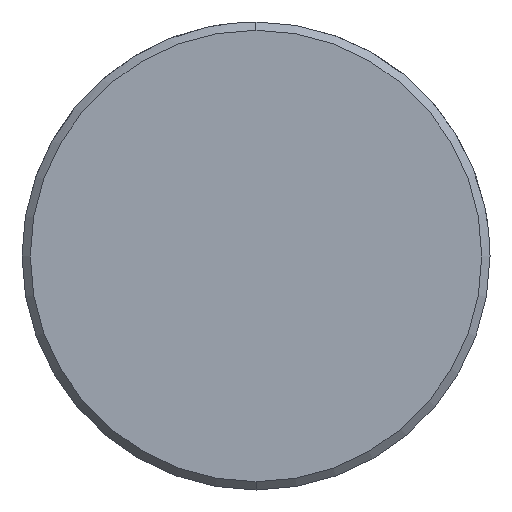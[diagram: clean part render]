
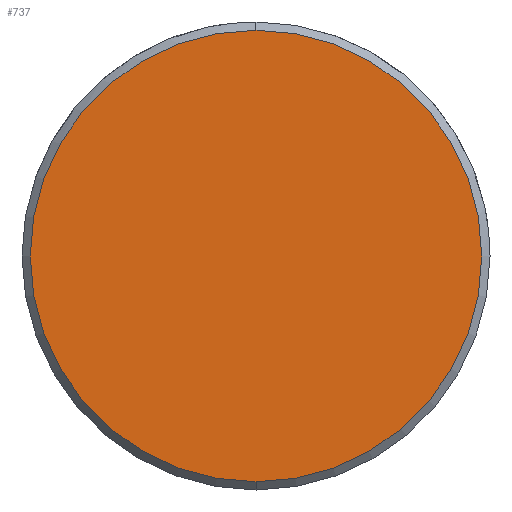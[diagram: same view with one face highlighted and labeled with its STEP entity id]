
A CAD part, left-side view. The second image highlights one B-rep face of the part: STEP entity #737.
In plain terms, the highlighted planar face has unit normal (-1, 0, 0).
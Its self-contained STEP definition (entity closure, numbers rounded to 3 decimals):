
#669=CARTESIAN_POINT('Vertex',(0.,0.,-8.2)) ;
#672=CARTESIAN_POINT('Axis2P3D Location',(0.,0.,0.)) ;
#676=CARTESIAN_POINT('Vertex',(0.,8.2,0.)) ;
#679=CARTESIAN_POINT('Axis2P3D Location',(0.,0.,0.)) ;
#683=CARTESIAN_POINT('Vertex',(0.,0.,8.2)) ;
#705=CARTESIAN_POINT('Axis2P3D Location',(0.,0.,0.)) ;
#709=CARTESIAN_POINT('Vertex',(0.,-8.2,0.)) ;
#712=CARTESIAN_POINT('Axis2P3D Location',(0.,0.,0.)) ;
#726=CARTESIAN_POINT('Axis2P3D Location',(0.,0.,0.)) ;
#673=DIRECTION('Axis2P3D Direction',(1.,0.,-0.)) ;
#680=DIRECTION('Axis2P3D Direction',(1.,0.,-0.)) ;
#706=DIRECTION('Axis2P3D Direction',(1.,0.,-0.)) ;
#713=DIRECTION('Axis2P3D Direction',(1.,0.,-0.)) ;
#727=DIRECTION('Axis2P3D Direction',(1.,0.,-0.)) ;
#728=DIRECTION('Axis2P3D XDirection',(-0.,0.,-1.)) ;
#674=AXIS2_PLACEMENT_3D('Circle Axis2P3D',#672,#673,$) ;
#681=AXIS2_PLACEMENT_3D('Circle Axis2P3D',#679,#680,$) ;
#707=AXIS2_PLACEMENT_3D('Circle Axis2P3D',#705,#706,$) ;
#714=AXIS2_PLACEMENT_3D('Circle Axis2P3D',#712,#713,$) ;
#729=AXIS2_PLACEMENT_3D('Plane Axis2P3D',#726,#727,#728) ;
#732=ORIENTED_EDGE('',*,*,#678,.F.) ;
#733=ORIENTED_EDGE('',*,*,#716,.F.) ;
#734=ORIENTED_EDGE('',*,*,#711,.F.) ;
#735=ORIENTED_EDGE('',*,*,#685,.F.) ;
#737=ADVANCED_FACE('549-14X140',(#736),#730,.F.) ;
#675=CIRCLE('generated circle',#674,8.2) ;
#682=CIRCLE('generated circle',#681,8.2) ;
#708=CIRCLE('generated circle',#707,8.2) ;
#715=CIRCLE('generated circle',#714,8.2) ;
#678=EDGE_CURVE('',#670,#677,#675,.T.) ;
#685=EDGE_CURVE('',#677,#684,#682,.T.) ;
#711=EDGE_CURVE('',#684,#710,#708,.T.) ;
#716=EDGE_CURVE('',#710,#670,#715,.T.) ;
#731=EDGE_LOOP('',(#732,#733,#734,#735)) ;
#736=FACE_OUTER_BOUND('',#731,.T.) ;
#730=PLANE('Plane',#729) ;
#670=VERTEX_POINT('',#669) ;
#677=VERTEX_POINT('',#676) ;
#684=VERTEX_POINT('',#683) ;
#710=VERTEX_POINT('',#709) ;
